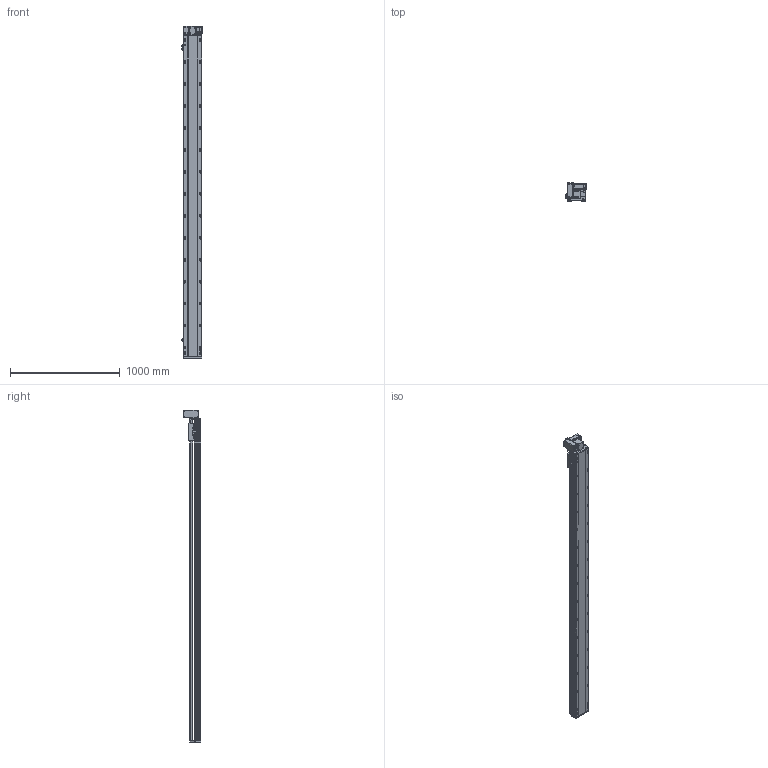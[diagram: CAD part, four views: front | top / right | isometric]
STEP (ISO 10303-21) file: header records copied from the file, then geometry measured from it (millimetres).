
FILE_DESCRIPTION (( 'STEP AP214' ), '1' );
FILE_NAME ('RTB17S-XX-2650-LW-M40-C4.STEP', '2025-12-11T07:18:22', ( '' ), ( '' ), 'SwSTEP 2.0', 'SolidWorks 2018', '' );
FILE_SCHEMA (( 'AUTOMOTIVE_DESIGN' ));
Length unit declared in the file: millimetre
Products named in the file (14): RTB14-L-017P^RTB17S-LW-々湍釱蚾饜-400W_RTB17S-XX-XX-LW-M40-C4; RTB17S-LW-々湍釱蚾饜-400W^RTB17S-XX-XX-LW-M40-C4; RTB17S-L-007奻裔^RTB17S-XX-XX-LW-M40-C4; RTB17S-L-001耜醱啣^RTB17S-XX-XX-LW-M40-C4; RTB17S-L-014-T20--々湍釱^RTB17S-LW-々湍釱蚾饜-400W_RTB17S-XX-XX-LW-M40-C4; RTB14-L-008-M20--萇儂啣^RTB17S-LW-々湍釱蚾饜-400W_RTB17S-XX-XX-LW-M40-C4; RTB17S-XX-2650-LW-M40-C4; RTB14-L-018P^RTB17S-LW-々湍釱蚾饜-400W_RTB17S-XX-XX-LW-M40-C4; RTB14-L-005P--轴承塑胶压盖^RTB17S-LW-皮带座装配-400W_RTB17S-XX-XX-LW-M40-C4; RTB17-R-011菁釱^RTB17S-XX-XX-LW-M40-C4; RTB17S-L-004佪裝蹟譫蟀諉釱^RTB17S-XX-XX-LW-M40-C4; OMRON EE-SX672 传感器^RTB17S-XX-XX-LW-M40-C4; 400W侜督萇儂^RTB17S-XX-XX-LW-M40-C4; RTH13-BL-012覜茼え俋离^RTB17S-XX-XX-LW-M40-C4
Assembly tree (16 placements, depth 3):
  RTB17S-XX-2650-LW-M40-C4
    RTB17-R-011菁釱^RTB17S-XX-XX-LW-M40-C4
    RTB17S-L-007奻裔^RTB17S-XX-XX-LW-M40-C4
    OMRON EE-SX672 传感器^RTB17S-XX-XX-LW-M40-C4  x3
    RTB17S-L-001耜醱啣^RTB17S-XX-XX-LW-M40-C4
    400W侜督萇儂^RTB17S-XX-XX-LW-M40-C4
    RTB17S-L-004佪裝蹟譫蟀諉釱^RTB17S-XX-XX-LW-M40-C4
    RTH13-BL-012覜茼え俋离^RTB17S-XX-XX-LW-M40-C4
    RTB17S-LW-々湍釱蚾饜-400W^RTB17S-XX-XX-LW-M40-C4
      RTB17S-L-014-T20--々湍釱^RTB17S-LW-々湍釱蚾饜-400W_RTB17S-XX-XX-LW-M40-C4
      RTB14-L-005P--轴承塑胶压盖^RTB17S-LW-皮带座装配-400W_RTB17S-XX-XX-LW-M40-C4
      RTB14-L-008-M20--萇儂啣^RTB17S-LW-々湍釱蚾饜-400W_RTB17S-XX-XX-LW-M40-C4
      RTB14-L-017P^RTB17S-LW-々湍釱蚾饜-400W_RTB17S-XX-XX-LW-M40-C4  x2
      RTB14-L-018P^RTB17S-LW-々湍釱蚾饜-400W_RTB17S-XX-XX-LW-M40-C4
Bounding box: 186 x 160.5 x 3022.5 mm (x, y, z)
Volume: 25824716.2 mm3; surface area: 2967194.2 mm2
Topology: 15 solids, 15 shells, 2349 faces, 6573 edges, 4293 vertices
Faces by surface type: plane 1086, cylinder 815, bspline 301, cone 139, torus 8
Entity records: 69545 total; most frequent: CARTESIAN_POINT 19778, ORIENTED_EDGE 9990, DIRECTION 9206, EDGE_CURVE 4995, VERTEX_POINT 3281, AXIS2_PLACEMENT_3D 3211, VECTOR 2784, LINE 2784
